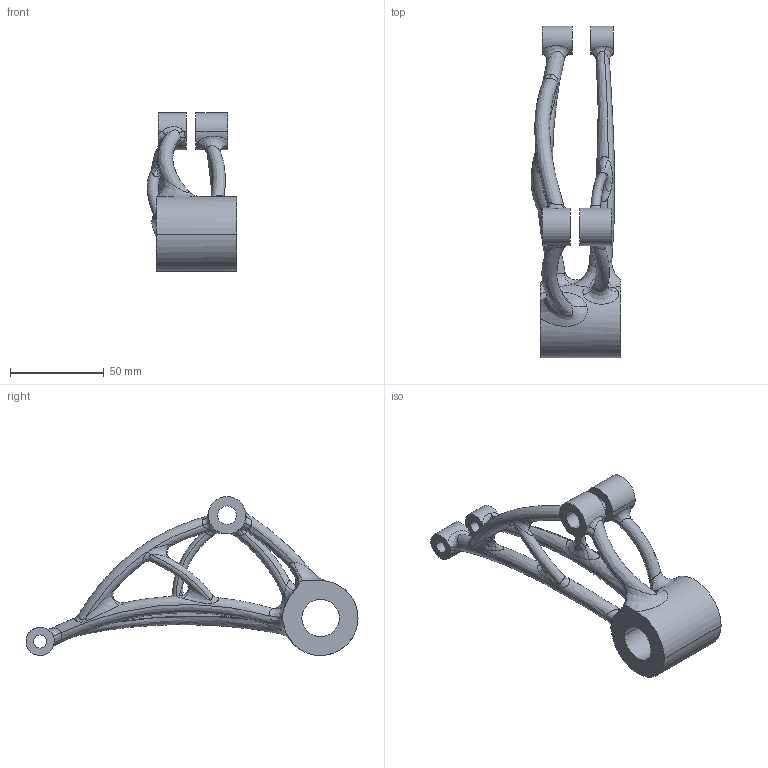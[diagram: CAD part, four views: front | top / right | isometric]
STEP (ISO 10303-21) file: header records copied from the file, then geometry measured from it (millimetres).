
FILE_DESCRIPTION(('CATIA V5 STEP Exchange'),'2;1');
FILE_NAME('X:\_BBS Brinkstraße\CAD\Quertraeger_Patricia\Quertraeger.stp','2023-01-05T19:25:50+00:00',('none'),('none'),'CATIA Version 5 Release 19 GA (IN-10)','CATIA V5 STEP AP203','none');
FILE_SCHEMA(('CONFIG_CONTROL_DESIGN'));
Length unit declared in the file: millimetre
Products named in the file (1): Quertraeger
Bounding box: 48.02 x 177.5 x 85 mm (x, y, z)
Volume: 82904.6 mm3; surface area: 28875.7 mm2
Topology: 1 solids, 1 shells, 116 faces, 310 edges, 194 vertices
Faces by surface type: bspline 83, cylinder 23, plane 10
Entity records: 21333 total; most frequent: CARTESIAN_POINT 19195, ORIENTED_EDGE 620, EDGE_CURVE 310, B_SPLINE_CURVE_WITH_KNOTS 244, VERTEX_POINT 194, EDGE_LOOP 130, ADVANCED_FACE 116, FACE_OUTER_BOUND 116
